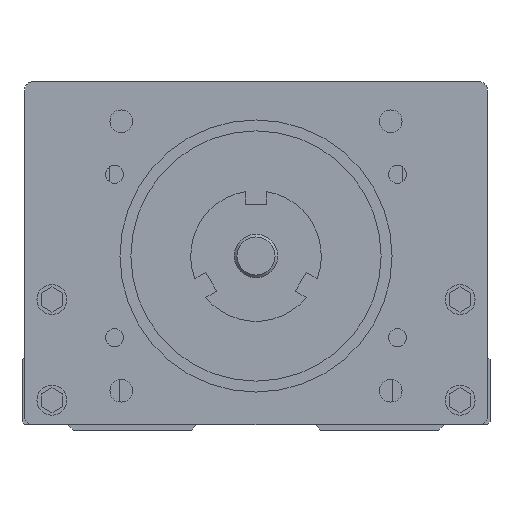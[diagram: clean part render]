
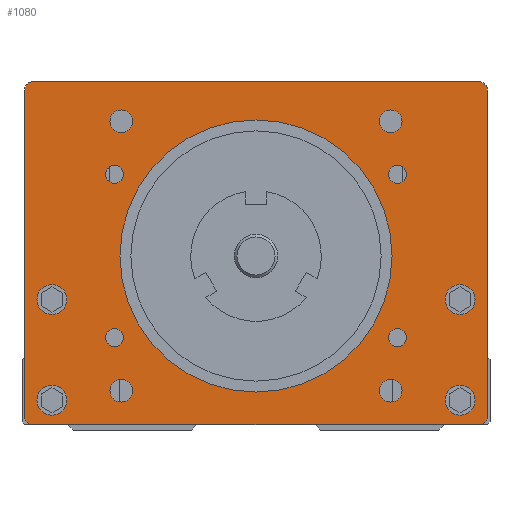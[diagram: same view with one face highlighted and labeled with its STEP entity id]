
A CAD part, front view. The second image highlights one B-rep face of the part: STEP entity #1080.
In plain terms, the highlighted planar face has unit normal (0, -1, 0).
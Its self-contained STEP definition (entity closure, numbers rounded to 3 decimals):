
#1080=ADVANCED_FACE('',(#2334,#2335,#2336,#2337,#2338,#2339,#2340,#2341,
#2342,#2343,#2344,#2345,#2346,#2347),#1607,.F.);
#1607=PLANE('',#9464);
#1962=CIRCLE('',#9436,1.5);
#1969=CIRCLE('',#9447,1.5);
#1970=CIRCLE('',#9449,1.5);
#1971=CIRCLE('',#9450,1.5);
#1972=CIRCLE('',#9451,2.75);
#1973=CIRCLE('',#9452,2.75);
#1974=CIRCLE('',#9453,2.75);
#1975=CIRCLE('',#9454,2.75);
#1976=CIRCLE('',#9455,25.);
#1977=CIRCLE('',#9456,1.65);
#1978=CIRCLE('',#9457,1.65);
#1979=CIRCLE('',#9458,1.65);
#1980=CIRCLE('',#9459,1.65);
#1981=CIRCLE('',#9460,2.1);
#1982=CIRCLE('',#9461,2.1);
#1983=CIRCLE('',#9462,2.1);
#1984=CIRCLE('',#9463,2.1);
#2334=FACE_BOUND('',#2800,.T.);
#2335=FACE_BOUND('',#2801,.T.);
#2336=FACE_BOUND('',#2802,.T.);
#2337=FACE_BOUND('',#2803,.T.);
#2338=FACE_BOUND('',#2804,.T.);
#2339=FACE_BOUND('',#2805,.T.);
#2340=FACE_BOUND('',#2806,.T.);
#2341=FACE_BOUND('',#2807,.T.);
#2342=FACE_BOUND('',#2808,.T.);
#2343=FACE_BOUND('',#2809,.T.);
#2344=FACE_BOUND('',#2810,.T.);
#2345=FACE_BOUND('',#2811,.T.);
#2346=FACE_BOUND('',#2812,.T.);
#2347=FACE_BOUND('',#2813,.T.);
#2800=EDGE_LOOP('',(#3911,#3912,#3913,#3914,#3915,#3916,#3917,#3918));
#2801=EDGE_LOOP('',(#3919));
#2802=EDGE_LOOP('',(#3920));
#2803=EDGE_LOOP('',(#3921));
#2804=EDGE_LOOP('',(#3922));
#2805=EDGE_LOOP('',(#3923));
#2806=EDGE_LOOP('',(#3924));
#2807=EDGE_LOOP('',(#3925));
#2808=EDGE_LOOP('',(#3926));
#2809=EDGE_LOOP('',(#3927));
#2810=EDGE_LOOP('',(#3928));
#2811=EDGE_LOOP('',(#3929));
#2812=EDGE_LOOP('',(#3930));
#2813=EDGE_LOOP('',(#3931));
#3911=ORIENTED_EDGE('',*,*,#6695,.T.);
#3912=ORIENTED_EDGE('',*,*,#6970,.F.);
#3913=ORIENTED_EDGE('',*,*,#6931,.T.);
#3914=ORIENTED_EDGE('',*,*,#6969,.F.);
#3915=ORIENTED_EDGE('',*,*,#6956,.T.);
#3916=ORIENTED_EDGE('',*,*,#6954,.F.);
#3917=ORIENTED_EDGE('',*,*,#6946,.T.);
#3918=ORIENTED_EDGE('',*,*,#6971,.F.);
#3919=ORIENTED_EDGE('',*,*,#6972,.F.);
#3920=ORIENTED_EDGE('',*,*,#6973,.F.);
#3921=ORIENTED_EDGE('',*,*,#6974,.F.);
#3922=ORIENTED_EDGE('',*,*,#6975,.F.);
#3923=ORIENTED_EDGE('',*,*,#6976,.F.);
#3924=ORIENTED_EDGE('',*,*,#6977,.F.);
#3925=ORIENTED_EDGE('',*,*,#6978,.F.);
#3926=ORIENTED_EDGE('',*,*,#6979,.F.);
#3927=ORIENTED_EDGE('',*,*,#6980,.F.);
#3928=ORIENTED_EDGE('',*,*,#6981,.F.);
#3929=ORIENTED_EDGE('',*,*,#6982,.F.);
#3930=ORIENTED_EDGE('',*,*,#6983,.F.);
#3931=ORIENTED_EDGE('',*,*,#6984,.F.);
#5870=VERTEX_POINT('',#12965);
#5871=VERTEX_POINT('',#12967);
#6050=VERTEX_POINT('',#13514);
#6051=VERTEX_POINT('',#13516);
#6064=VERTEX_POINT('',#13546);
#6065=VERTEX_POINT('',#13548);
#6069=VERTEX_POINT('',#13564);
#6070=VERTEX_POINT('',#13568);
#6080=VERTEX_POINT('',#13598);
#6081=VERTEX_POINT('',#13600);
#6082=VERTEX_POINT('',#13602);
#6083=VERTEX_POINT('',#13604);
#6084=VERTEX_POINT('',#13606);
#6085=VERTEX_POINT('',#13608);
#6086=VERTEX_POINT('',#13610);
#6087=VERTEX_POINT('',#13612);
#6088=VERTEX_POINT('',#13614);
#6089=VERTEX_POINT('',#13616);
#6090=VERTEX_POINT('',#13618);
#6091=VERTEX_POINT('',#13620);
#6092=VERTEX_POINT('',#13622);
#6695=EDGE_CURVE('',#5871,#5870,#7868,.T.);
#6931=EDGE_CURVE('',#6051,#6050,#8012,.T.);
#6946=EDGE_CURVE('',#6065,#6064,#8023,.T.);
#6954=EDGE_CURVE('',#6065,#6069,#1962,.T.);
#6956=EDGE_CURVE('',#6070,#6069,#8028,.T.);
#6969=EDGE_CURVE('',#6070,#6050,#1969,.T.);
#6970=EDGE_CURVE('',#6051,#5870,#1970,.T.);
#6971=EDGE_CURVE('',#5871,#6064,#1971,.T.);
#6972=EDGE_CURVE('',#6080,#6080,#1972,.T.);
#6973=EDGE_CURVE('',#6081,#6081,#1973,.T.);
#6974=EDGE_CURVE('',#6082,#6082,#1974,.T.);
#6975=EDGE_CURVE('',#6083,#6083,#1975,.T.);
#6976=EDGE_CURVE('',#6084,#6084,#1976,.T.);
#6977=EDGE_CURVE('',#6085,#6085,#1977,.T.);
#6978=EDGE_CURVE('',#6086,#6086,#1978,.T.);
#6979=EDGE_CURVE('',#6087,#6087,#1979,.T.);
#6980=EDGE_CURVE('',#6088,#6088,#1980,.T.);
#6981=EDGE_CURVE('',#6089,#6089,#1981,.T.);
#6982=EDGE_CURVE('',#6090,#6090,#1982,.T.);
#6983=EDGE_CURVE('',#6091,#6091,#1983,.T.);
#6984=EDGE_CURVE('',#6092,#6092,#1984,.T.);
#7868=LINE('',#12966,#8599);
#8012=LINE('',#13515,#8743);
#8023=LINE('',#13547,#8754);
#8028=LINE('',#13567,#8759);
#8599=VECTOR('',#10294,1.);
#8743=VECTOR('',#10664,1.);
#8754=VECTOR('',#10689,1.);
#8759=VECTOR('',#10714,1.);
#9436=AXIS2_PLACEMENT_3D('',#13563,#10709,#10710);
#9447=AXIS2_PLACEMENT_3D('',#13593,#10739,#10740);
#9449=AXIS2_PLACEMENT_3D('',#13595,#10743,#10744);
#9450=AXIS2_PLACEMENT_3D('',#13596,#10745,#10746);
#9451=AXIS2_PLACEMENT_3D('',#13597,#10747,#10748);
#9452=AXIS2_PLACEMENT_3D('',#13599,#10749,#10750);
#9453=AXIS2_PLACEMENT_3D('',#13601,#10751,#10752);
#9454=AXIS2_PLACEMENT_3D('',#13603,#10753,#10754);
#9455=AXIS2_PLACEMENT_3D('',#13605,#10755,#10756);
#9456=AXIS2_PLACEMENT_3D('',#13607,#10757,#10758);
#9457=AXIS2_PLACEMENT_3D('',#13609,#10759,#10760);
#9458=AXIS2_PLACEMENT_3D('',#13611,#10761,#10762);
#9459=AXIS2_PLACEMENT_3D('',#13613,#10763,#10764);
#9460=AXIS2_PLACEMENT_3D('',#13615,#10765,#10766);
#9461=AXIS2_PLACEMENT_3D('',#13617,#10767,#10768);
#9462=AXIS2_PLACEMENT_3D('',#13619,#10769,#10770);
#9463=AXIS2_PLACEMENT_3D('',#13621,#10771,#10772);
#9464=AXIS2_PLACEMENT_3D('',#13623,#10773,#10774);
#10294=DIRECTION('',(1.,0.,0.));
#10664=DIRECTION('',(0.,0.,1.));
#10689=DIRECTION('',(0.,0.,-1.));
#10709=DIRECTION('',(0.,1.,0.));
#10710=DIRECTION('',(-1.,0.,0.));
#10714=DIRECTION('',(-1.,0.,0.));
#10739=DIRECTION('',(0.,1.,0.));
#10740=DIRECTION('',(0.,0.,1.));
#10743=DIRECTION('',(0.,1.,0.));
#10744=DIRECTION('',(1.,0.,0.));
#10745=DIRECTION('',(0.,1.,0.));
#10746=DIRECTION('',(0.,0.,-1.));
#10747=DIRECTION('',(0.,-1.,0.));
#10748=DIRECTION('',(0.,0.,1.));
#10749=DIRECTION('',(0.,-1.,0.));
#10750=DIRECTION('',(0.,0.,1.));
#10751=DIRECTION('',(0.,-1.,0.));
#10752=DIRECTION('',(0.,0.,1.));
#10753=DIRECTION('',(0.,-1.,0.));
#10754=DIRECTION('',(0.,0.,1.));
#10755=DIRECTION('',(0.,-1.,0.));
#10756=DIRECTION('',(1.,0.,0.));
#10757=DIRECTION('',(0.,-1.,0.));
#10758=DIRECTION('',(1.,0.,0.));
#10759=DIRECTION('',(0.,-1.,0.));
#10760=DIRECTION('',(1.,0.,0.));
#10761=DIRECTION('',(0.,-1.,0.));
#10762=DIRECTION('',(1.,0.,0.));
#10763=DIRECTION('',(0.,-1.,0.));
#10764=DIRECTION('',(1.,0.,0.));
#10765=DIRECTION('',(0.,-1.,0.));
#10766=DIRECTION('',(1.,0.,0.));
#10767=DIRECTION('',(0.,-1.,0.));
#10768=DIRECTION('',(1.,0.,0.));
#10769=DIRECTION('',(0.,-1.,0.));
#10770=DIRECTION('',(1.,0.,0.));
#10771=DIRECTION('',(0.,-1.,0.));
#10772=DIRECTION('',(1.,0.,0.));
#10773=DIRECTION('',(0.,1.,0.));
#10774=DIRECTION('',(1.,0.,0.));
#12965=CARTESIAN_POINT('',(41.,50.,0.));
#12966=CARTESIAN_POINT('',(-41.,50.,0.));
#12967=CARTESIAN_POINT('',(-41.,50.,0.));
#13514=CARTESIAN_POINT('',(42.5,50.,61.5));
#13515=CARTESIAN_POINT('',(42.5,50.,1.5));
#13516=CARTESIAN_POINT('',(42.5,50.,1.5));
#13546=CARTESIAN_POINT('',(-42.5,50.,1.5));
#13547=CARTESIAN_POINT('',(-42.5,50.,61.5));
#13548=CARTESIAN_POINT('',(-42.5,50.,61.5));
#13563=CARTESIAN_POINT('',(-41.,50.,61.5));
#13564=CARTESIAN_POINT('',(-41.,50.,63.));
#13567=CARTESIAN_POINT('',(41.,50.,63.));
#13568=CARTESIAN_POINT('',(41.,50.,63.));
#13593=CARTESIAN_POINT('',(41.,50.,61.5));
#13595=CARTESIAN_POINT('',(41.,50.,1.5));
#13596=CARTESIAN_POINT('',(-41.,50.,1.5));
#13597=CARTESIAN_POINT('',(37.5,50.,4.5));
#13598=CARTESIAN_POINT('',(37.5,50.,7.25));
#13599=CARTESIAN_POINT('',(37.5,50.,23.));
#13600=CARTESIAN_POINT('',(37.5,50.,25.75));
#13601=CARTESIAN_POINT('',(-37.5,50.,23.));
#13602=CARTESIAN_POINT('',(-37.5,50.,25.75));
#13603=CARTESIAN_POINT('',(-37.5,50.,4.5));
#13604=CARTESIAN_POINT('',(-37.5,50.,7.25));
#13605=CARTESIAN_POINT('',(0.,50.,31.));
#13606=CARTESIAN_POINT('',(25.,50.,31.));
#13607=CARTESIAN_POINT('',(-25.981,50.,46.));
#13608=CARTESIAN_POINT('',(-24.331,50.,46.));
#13609=CARTESIAN_POINT('',(-25.981,50.,16.));
#13610=CARTESIAN_POINT('',(-24.331,50.,16.));
#13611=CARTESIAN_POINT('',(25.981,50.,16.));
#13612=CARTESIAN_POINT('',(27.631,50.,16.));
#13613=CARTESIAN_POINT('',(25.981,50.,46.));
#13614=CARTESIAN_POINT('',(27.631,50.,46.));
#13615=CARTESIAN_POINT('',(24.749,50.,55.749));
#13616=CARTESIAN_POINT('',(26.849,50.,55.749));
#13617=CARTESIAN_POINT('',(24.749,50.,6.251));
#13618=CARTESIAN_POINT('',(26.849,50.,6.251));
#13619=CARTESIAN_POINT('',(-24.749,50.,6.251));
#13620=CARTESIAN_POINT('',(-22.649,50.,6.251));
#13621=CARTESIAN_POINT('',(-24.749,50.,55.749));
#13622=CARTESIAN_POINT('',(-22.649,50.,55.749));
#13623=CARTESIAN_POINT('',(0.,50.,31.));
